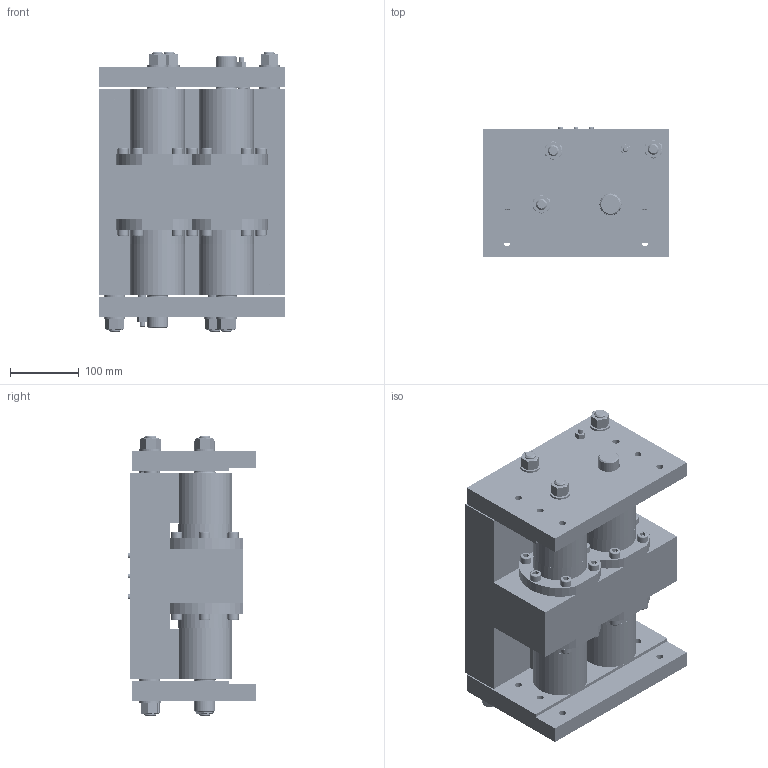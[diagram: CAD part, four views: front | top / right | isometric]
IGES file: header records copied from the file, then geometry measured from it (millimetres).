
Start section: SolidWorks IGES FILE using analytic representation for surfaces
Global section: file name: C:\Documents and Settings\TEDPI\Bureau\AA Auo2.step\GST 80.IGS; native system: SolidWorks 2004 by SolidWorks Corporation; preprocessor: Version 5.3; author: TEDPI; date: 061213.153357; units: millimetre
Bounding box: 270 x 187 x 406.6 mm (x, y, z)
Surface area: 1890142 mm2 (no closed solid volume)
Topology: 0 solids, 0 shells, 4333 faces, 87372 edges, 87032 vertices
Faces by surface type: revolution 2526, bspline 1807
